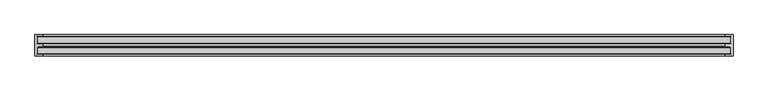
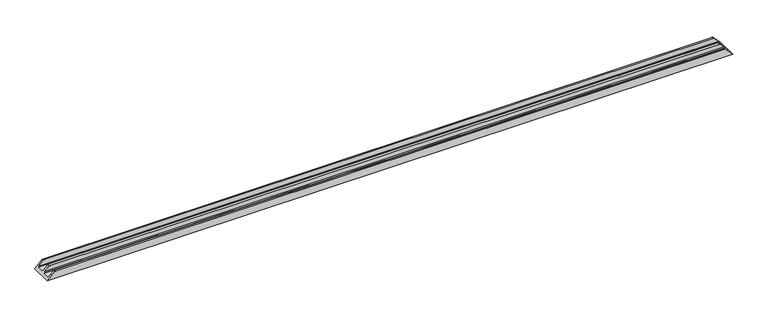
"""IFC4 building model written with IfcOpenShell, lengths in millimetres: proxy geometry, Weiku - Montante - Caixilho duplo 02.3.02.409 : Weiku - Montante - Caixilho duplo 02.3.02.409."""

from ifc_helpers import new_model, si_unit, frame, origin, place, context, project, spatial, ellipse_curve, source, transform, mapped, element, save
from ifc_brep_helpers import plane_surface, cylinder_surface, advanced_brep


def generic_models_a3132a74(model_context):
    return source(origin(), model_context, "Body", "AdvancedBrep", [
        advanced_brep(
        [(-2538.2, 9.8, 18.2), (-2500.5, 9.8, 55.9), (2500.5, 9.8, 55.9), (2538.2, 9.8, 18.2), (-2540.7000079, 63.85, 15.6999921), (-2540.7000079, 15.05, 15.6999921), (2540.7000079, 15.05, 15.6999921), (2540.7000079, 63.85, 15.6999921), (-2500.5000055, 69.1, 55.8999945), (-2532.5700642, 69.1, 23.8299358), (2532.5700642, 69.1, 23.8299358), (2500.5000055, 69.1, 55.8999945), (-2500.0000055, 86.65, 56.3999945), (-2500.0000055, 69.6, 56.3999945), (2500.0000055, 69.6, 56.3999945), (2500.0000055, 86.65, 56.3999945), (-2532.6236827, 87.15, 23.7763173), (-2500.5000055, 87.15, 55.8999945), (2500.5000055, 87.15, 55.8999945), (2532.6236827, 87.15, 23.7763173), (-2556.4, 156.2000166, 0.0), (2556.4, 156.2000166, 0.0), (2556.4, 0.0, 0.0), (-2556.4, 0.0, 0.0), (2500.5, 0.0, 55.9), (-2500.5, 0.0, 55.9), (-2500.0, 9.3, 56.4), (-2500.0, 0.5, 56.4), (2500.0, 0.5, 56.4), (2500.0, 9.3, 56.4), (-2538.2, 15.05, 18.2), (-2538.2, 63.85, 18.2), (-2538.2000178, 92.3500166, 18.1999822), (-2540.7000079, 92.3500166, 15.6999921), (-2540.7000079, 141.1500166, 15.6999921), (-2538.2, 141.1500166, 18.2), (-2538.2, 146.4000166, 18.2), (-2500.5, 146.4000166, 55.9), (-2500.0, 146.9000166, 56.4), (-2500.0, 155.7000166, 56.4), (-2500.5, 156.2000166, 55.9), (2500.5, 156.2000166, 55.9), (2500.0, 155.7000166, 56.4), (2500.0, 146.9000166, 56.4), (2500.5, 146.4000166, 55.9), (2538.2, 146.4000166, 18.2), (2538.2, 141.1500166, 18.2), (2540.7000079, 141.1500166, 15.6999921), (2540.7000079, 92.3500166, 15.6999921), (2538.2000178, 92.3500166, 18.1999822), (2538.2, 63.85, 18.2), (2538.2, 15.05, 18.2)],
        [
            (0, 1),
            (1, 2),
            (2, 3),
            (3, 0),
            (4, 5),
            (5, 6),
            (6, 7),
            (7, 4),
            (8, 9),
            (9, 10),
            (10, 11),
            (11, 8),
            (12, 13),
            (13, 14),
            (14, 15),
            (15, 12),
            (16, 17),
            (17, 18),
            (18, 19),
            (19, 16),
            (20, 21),
            (21, 22),
            (22, 23),
            (23, 20),
            (22, 24),
            (24, 25),
            (25, 23),
            (26, 27),
            (27, 28),
            (28, 29),
            (29, 26),
            (0, 30),
            (30, 5),
            (4, 31),
            (31, 9),
            (8, 13, ellipse_curve(frame((-2500.5000055, 69.6, 55.8999945), z_axis=(-0.7071067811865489, 0.0, 0.7071067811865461), x_axis=(-0.7071067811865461, 0.0, -0.7071067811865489)), 0.7071068, 0.5)),
            (12, 17, ellipse_curve(frame((-2500.5000055, 86.65, 55.8999945), z_axis=(-0.7071067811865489, 0.0, 0.7071067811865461), x_axis=(-0.7071067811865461, 0.0, -0.7071067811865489)), 0.7071068, 0.5)),
            (16, 32),
            (32, 33),
            (33, 34),
            (34, 35),
            (35, 36),
            (36, 37),
            (37, 38, ellipse_curve(frame((-2500.5, 146.9000166, 55.9), z_axis=(-0.7071067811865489, 0.0, 0.7071067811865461), x_axis=(-0.7071067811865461, 0.0, -0.7071067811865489)), 0.7071068, 0.5)),
            (38, 39),
            (39, 40, ellipse_curve(frame((-2500.5, 155.7000166, 55.9), z_axis=(-0.7071067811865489, 0.0, 0.7071067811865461), x_axis=(-0.7071067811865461, 0.0, -0.7071067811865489)), 0.7071068, 0.5)),
            (40, 20),
            (25, 27, ellipse_curve(frame((-2500.5, 0.5, 55.9), z_axis=(-0.7071067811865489, 0.0, 0.7071067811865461), x_axis=(-0.7071067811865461, 0.0, -0.7071067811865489)), 0.7071068, 0.5)),
            (26, 1, ellipse_curve(frame((-2500.5, 9.3, 55.9), z_axis=(-0.7071067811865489, 0.0, 0.7071067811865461), x_axis=(-0.7071067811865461, 0.0, -0.7071067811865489)), 0.7071068, 0.5)),
            (2, 29, ellipse_curve(frame((2500.5, 9.3, 55.9), z_axis=(0.7071067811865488, 0.0, 0.7071067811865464), x_axis=(-0.7071067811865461, 0.0, 0.7071067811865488)), 0.7071068, 0.5)),
            (28, 24, ellipse_curve(frame((2500.5, 0.5, 55.9), z_axis=(0.7071067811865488, 0.0, 0.7071067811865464), x_axis=(-0.7071067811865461, 0.0, 0.7071067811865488)), 0.7071068, 0.5)),
            (21, 41),
            (41, 42, ellipse_curve(frame((2500.5, 155.7000166, 55.9), z_axis=(0.7071067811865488, 0.0, 0.7071067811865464), x_axis=(-0.7071067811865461, 0.0, 0.7071067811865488)), 0.7071068, 0.5)),
            (42, 43),
            (43, 44, ellipse_curve(frame((2500.5, 146.9000166, 55.9), z_axis=(0.7071067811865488, 0.0, 0.7071067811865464), x_axis=(-0.7071067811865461, 0.0, 0.7071067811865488)), 0.7071068, 0.5)),
            (44, 45),
            (45, 46),
            (46, 47),
            (47, 48),
            (48, 49),
            (49, 19),
            (18, 15, ellipse_curve(frame((2500.5000055, 86.65, 55.8999945), z_axis=(0.7071067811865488, 0.0, 0.7071067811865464), x_axis=(-0.7071067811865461, 0.0, 0.7071067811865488)), 0.7071068, 0.5)),
            (14, 11, ellipse_curve(frame((2500.5000055, 69.6, 55.8999945), z_axis=(0.7071067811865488, 0.0, 0.7071067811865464), x_axis=(-0.7071067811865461, 0.0, 0.7071067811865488)), 0.7071068, 0.5)),
            (10, 50),
            (50, 7),
            (6, 51),
            (51, 3),
            (51, 30),
            (50, 31),
            (49, 32),
            (48, 33),
            (47, 34),
            (46, 35),
            (45, 36),
            (44, 37),
            (38, 43),
            (42, 39),
            (41, 40),
        ],
        [
            plane_surface(frame((-2556.4, 9.8, 55.9), z_axis=(0.0, 1.0, 0.0), x_axis=(1.0, 0.0, 0.0))),
            plane_surface(frame((-2556.4, 15.05, 15.6999921), z_axis=(0.0, 0.0, 1.0), x_axis=(1.0, 0.0, 0.0))),
            plane_surface(frame((-2556.4, 69.1, 23.8299358), z_axis=(0.0, -1.0, 0.0), x_axis=(1.0, 0.0, 0.0))),
            plane_surface(frame((-2556.4, 69.6, 56.3999945), z_axis=(0.0, 0.0, 1.0), x_axis=(1.0, 0.0, 0.0))),
            plane_surface(frame((-2556.4, 87.15, 55.8999945), z_axis=(0.0, 1.0, 0.0), x_axis=(1.0, 0.0, 0.0))),
            plane_surface(frame((-2556.4, 156.2000166, 0.0), z_axis=(0.0, 0.0, -1.0), x_axis=(1.0, 0.0, 0.0))),
            plane_surface(frame((-2556.4, 0.0, 0.0), z_axis=(0.0, -1.0, 0.0), x_axis=(1.0, 0.0, 0.0))),
            plane_surface(frame((-2556.4, 0.5, 56.4), z_axis=(0.0, 0.0, 1.0), x_axis=(1.0, 0.0, 0.0))),
            plane_surface(frame((-2556.4, 0.0, 0.0), z_axis=(-0.7071067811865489, 0.0, 0.7071067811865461), x_axis=(0.0, 1.0, 0.0))),
            plane_surface(frame((2496.4, 0.0, 60.0), z_axis=(0.7071067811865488, 0.0, 0.7071067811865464), x_axis=(0.0, 1.0, 0.0))),
            plane_surface(frame((-2556.4, 9.8, 18.2), z_axis=(0.0, 0.0, 1.0), x_axis=(1.0, 0.0, 0.0))),
            plane_surface(frame((-2556.4, 15.05, 18.2), z_axis=(0.0, 1.0, 0.0), x_axis=(1.0, 0.0, 0.0))),
            plane_surface(frame((-2556.4, 63.85, 15.6999921), z_axis=(0.0, -1.0, 0.0), x_axis=(1.0, 0.0, 0.0))),
            plane_surface(frame((-2556.4, 63.85, 18.2), z_axis=(0.0, -0.7313537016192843, 0.6819983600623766), x_axis=(1.0, 0.0, 0.0))),
            cylinder_surface(frame((-2556.4, 86.65, 55.8999945), z_axis=(-1.0, 0.0, 0.0), x_axis=(0.0, 1.0, 0.0)), 0.5),
            cylinder_surface(frame((-2556.4, 0.5, 55.9), z_axis=(-1.0, 0.0, 0.0), x_axis=(0.0, 1.0, 0.0)), 0.5),
            plane_surface(frame((-2556.4, 87.15, 23.7763173), z_axis=(0.0, 0.7313537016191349, 0.6819983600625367), x_axis=(1.0, 0.0, 0.0))),
            plane_surface(frame((-2556.4, 92.3500166, 18.1999822), z_axis=(0.0, 1.0, 0.0), x_axis=(1.0, 0.0, 0.0))),
            plane_surface(frame((-2556.4, 92.3500166, 15.6999921), z_axis=(0.0, 0.0, 1.0), x_axis=(1.0, 0.0, 0.0))),
            plane_surface(frame((-2556.4, 141.1500166, 15.6999921), z_axis=(0.0, -1.0, 0.0), x_axis=(1.0, 0.0, 0.0))),
            plane_surface(frame((-2556.4, 141.1500166, 18.2), z_axis=(0.0, 0.0, 1.0), x_axis=(1.0, 0.0, 0.0))),
            plane_surface(frame((-2556.4, 146.4000166, 18.2), z_axis=(0.0, -1.0, 0.0), x_axis=(1.0, 0.0, 0.0))),
            plane_surface(frame((-2556.4, 146.9000166, 56.4), z_axis=(0.0, 0.0, 1.0), x_axis=(1.0, 0.0, 0.0))),
            cylinder_surface(frame((-2556.4, 155.7000166, 55.9), z_axis=(-1.0, 0.0, 0.0), x_axis=(0.0, -1.0, 0.0)), 0.5),
            plane_surface(frame((-2556.4, 156.2000166, 55.9), z_axis=(0.0, 1.0, 0.0), x_axis=(1.0, 0.0, 0.0))),
            cylinder_surface(frame((-2556.4, 9.3, 55.9), z_axis=(-1.0, 0.0, 0.0), x_axis=(0.0, 1.0, 0.0)), 0.5),
            cylinder_surface(frame((-2556.4, 69.6, 55.8999945), z_axis=(-1.0, 0.0, 0.0), x_axis=(0.0, 1.0, 0.0)), 0.5),
            cylinder_surface(frame((-2556.4, 146.9000166, 55.9), z_axis=(-1.0, 0.0, 0.0), x_axis=(0.0, 1.0, 0.0)), 0.5),
        ],
        [
            (0, [[1, 2, 3, 4]]),
            (1, [[5, 6, 7, 8]]),
            (2, [[9, 10, 11, 12]]),
            (3, [[13, 14, 15, 16]]),
            (4, [[17, 18, 19, 20]]),
            (5, [[21, 22, 23, 24]]),
            (6, [[-23, 25, 26, 27]]),
            (7, [[28, 29, 30, 31]]),
            (8, [[-1, 32, 33, -5, 34, 35, -9, 36, -13, 37, -17, 38, 39, 40, 41, 42, 43, 44, 45, 46, 47, -24, -27, 48, -28, 49]]),
            (9, [[-3, 50, -30, 51, -25, -22, 52, 53, 54, 55, 56, 57, 58, 59, 60, 61, -19, 62, -15, 63, -11, 64, 65, -7, 66, 67]]),
            (10, [[-32, -4, -67, 68]]),
            (11, [[-33, -68, -66, -6]]),
            (12, [[-34, -8, -65, 69]]),
            (13, [[-35, -69, -64, -10]]),
            (14, [[-37, -16, -62, -18]]),
            (15, [[-48, -26, -51, -29]]),
            (16, [[-38, -20, -61, 70]]),
            (17, [[-39, -70, -60, 71]]),
            (18, [[-40, -71, -59, 72]]),
            (19, [[-41, -72, -58, 73]]),
            (20, [[-42, -73, -57, 74]]),
            (21, [[-43, -74, -56, 75]]),
            (22, [[-45, 76, -54, 77]]),
            (23, [[-46, -77, -53, 78]]),
            (24, [[-21, -47, -78, -52]]),
            (25, [[-49, -31, -50, -2]]),
            (26, [[-36, -12, -63, -14]]),
            (27, [[-44, -75, -55, -76]]),
        ],
    ),
    ])


if __name__ == "__main__":
    model = new_model("IFC4")
    model_context = context("Model", 3, world=origin())
    ifc_project = project(units=[si_unit("LENGTHUNIT", "METRE", prefix="MILLI")], contexts=[model_context])
    site = spatial("IfcSite", under=ifc_project)
    building = spatial("IfcBuilding", under=site)
    placement = place(None, origin())
    generic_models_shape = generic_models_a3132a74(model_context)
    element("IfcBuildingElementProxy", 1, Name="Weiku - Montante - Caixilho duplo 02.3.02.409 : Weiku - Montante - Caixilho duplo 02.3.02.409", ObjectType="Weiku - Montante - Caixilho duplo 02.3.02.409 : Weiku - Montante - Caixilho duplo 02.3.02.409", at=placement, inside=building, context=model_context, shape_type="MappedRepresentation", body=[
        mapped(generic_models_shape, transform((0.0, 0.0, 0.0), x_axis=(1.0, 0.0, 0.0), y_axis=(0.0, 1.0, 0.0), z_axis=(0.0, 0.0, 1.0))),
    ])
    save(model, "model.ifc")
